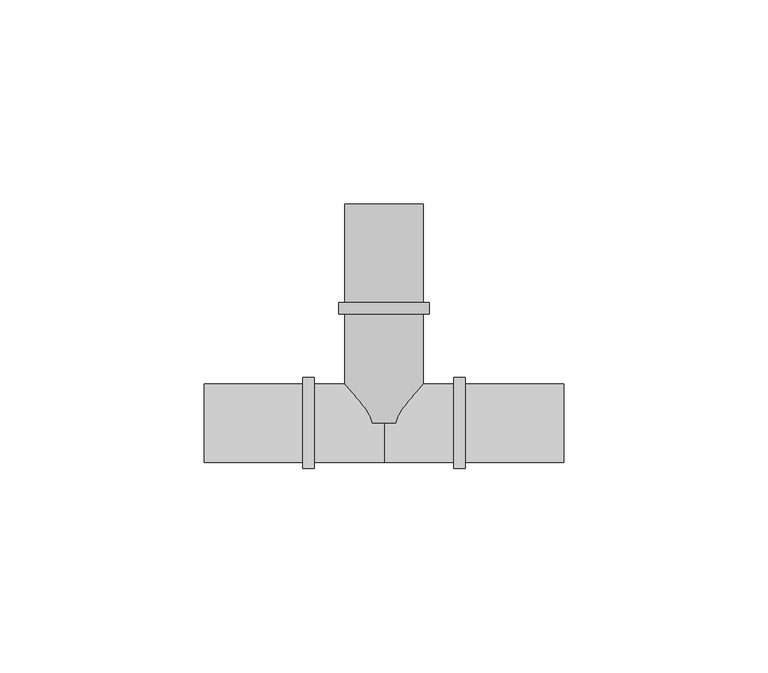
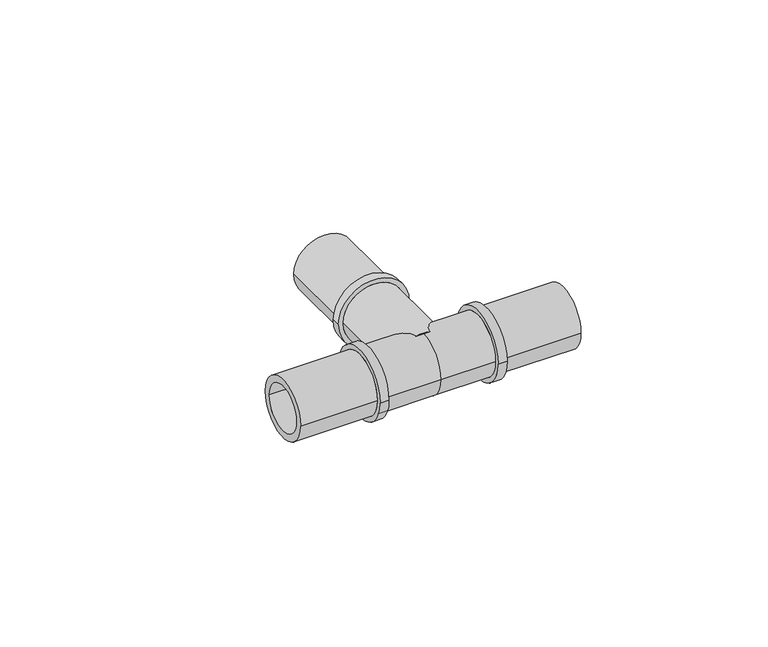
"""IFC4 building model written with IfcOpenShell, lengths in millimetres: pipe fitting geometry, FASTLOC_T-piece_LX : FSL T-Piece LX PL."""

from ifc_helpers import new_model, si_unit, frame, origin, place, context, project, spatial, polyline, circle_curve, source, transform, mapped, element, save
from ifc_brep_helpers import plane_surface, cylinder_surface, revolved_surface, advanced_brep


def pipe_fitting_5b3ed3f5(model_context):
    return source(origin(), model_context, "Body", "AdvancedBrep", [
        advanced_brep(
        [(7.35, 53.5, 0.0), (-7.35, 53.5, 0.0), (-7.35, 0.0, 0.0), (7.35, 0.0, 0.0), (9.6, 0.0, 0.0), (-9.6, 0.0, 0.0), (-9.6, 26.7, 0.0), (9.6, 26.7, 0.0), (11.1, 26.7, 0.0), (-11.1, 26.7, 0.0), (-11.1, 29.5, 0.0), (11.1, 29.5, 0.0), (9.6, 29.5, 0.0), (-9.6, 29.5, 0.0), (-9.6, 53.5, 0.0), (9.6, 53.5, 0.0)],
        [
            (0, 1, circle_curve(frame((0.0, 53.5, 0.0), z_axis=(0.0, 1.0, 0.0), x_axis=(-1.0, 0.0, 0.0)), 7.35)),
            (1, 2),
            (2, 3, circle_curve(frame((0.0, 0.0, 0.0), z_axis=(0.0, -1.0, 0.0), x_axis=(-1.0, 0.0, 0.0)), 7.35)),
            (3, 0),
            (4, 5, circle_curve(frame((0.0, 0.0, 0.0), z_axis=(0.0, 1.0, 0.0), x_axis=(-1.0, 0.0, 0.0)), 9.6)),
            (5, 6),
            (6, 7, circle_curve(frame((0.0, 26.7, 0.0), z_axis=(0.0, -1.0, 0.0), x_axis=(-1.0, 0.0, 0.0)), 9.6)),
            (7, 4),
            (8, 9, circle_curve(frame((0.0, 26.7, 0.0), z_axis=(0.0, 1.0, 0.0), x_axis=(-1.0, 0.0, 0.0)), 11.1)),
            (9, 10),
            (10, 11, circle_curve(frame((0.0, 29.5, 0.0), z_axis=(0.0, -1.0, 0.0), x_axis=(-1.0, 0.0, 0.0)), 11.1)),
            (11, 8),
            (12, 13, circle_curve(frame((0.0, 29.5, 0.0), z_axis=(0.0, 1.0, 0.0), x_axis=(-1.0, 0.0, 0.0)), 9.6)),
            (13, 14),
            (14, 15, circle_curve(frame((0.0, 53.5, 0.0), z_axis=(0.0, -1.0, 0.0), x_axis=(-1.0, 0.0, 0.0)), 9.6)),
            (15, 12),
            (1, 0, circle_curve(frame((0.0, 53.5, 0.0), z_axis=(0.0, 1.0, 0.0), x_axis=(1.0, 0.0, 0.0)), 7.35)),
            (3, 2, circle_curve(frame((0.0, 0.0, 0.0), z_axis=(0.0, -1.0, 0.0), x_axis=(1.0, 0.0, 0.0)), 7.35)),
            (4, 5, circle_curve(frame((0.0, 0.0, 0.0), z_axis=(0.0, -1.0, 0.0), x_axis=(1.0, 0.0, 0.0)), 9.6)),
            (7, 6, circle_curve(frame((0.0, 26.7, 0.0), z_axis=(0.0, -1.0, 0.0), x_axis=(1.0, 0.0, 0.0)), 9.6)),
            (8, 9, circle_curve(frame((0.0, 26.7, 0.0), z_axis=(0.0, -1.0, 0.0), x_axis=(1.0, 0.0, 0.0)), 11.1)),
            (11, 10, circle_curve(frame((0.0, 29.5, 0.0), z_axis=(0.0, -1.0, 0.0), x_axis=(1.0, 0.0, 0.0)), 11.1)),
            (12, 13, circle_curve(frame((0.0, 29.5, 0.0), z_axis=(0.0, -1.0, 0.0), x_axis=(1.0, 0.0, 0.0)), 9.6)),
            (15, 14, circle_curve(frame((0.0, 53.5, 0.0), z_axis=(0.0, -1.0, 0.0), x_axis=(1.0, 0.0, 0.0)), 9.6)),
        ],
        [
            revolved_surface(polyline([(-7.35, 0.0, 0.0), (-7.35, 53.5, 0.0)]), (0.0, 0.0, 0.0), (0.0, -1.0, 0.0)),
            cylinder_surface(frame((0.0, 0.0, 0.0), z_axis=(0.0, -1.0, 0.0), x_axis=(-1.0, 0.0, 0.0)), 9.6),
            cylinder_surface(frame((0.0, 0.0, 0.0), z_axis=(0.0, -1.0, 0.0), x_axis=(-1.0, 0.0, 0.0)), 11.1),
            revolved_surface(polyline([(7.35, 0.0, 0.0), (7.35, 53.5, 0.0)]), (0.0, 0.0, 0.0), (0.0, -1.0, 0.0)),
            plane_surface(frame((0.0, 0.0, 0.0), z_axis=(0.0, -1.0, 0.0), x_axis=(1.0, 0.0, 0.0))),
            cylinder_surface(frame((0.0, 0.0, 0.0), z_axis=(0.0, -1.0, 0.0), x_axis=(1.0, 0.0, 0.0)), 9.6),
            plane_surface(frame((0.0, 26.7, 0.0), z_axis=(0.0, -1.0, 0.0), x_axis=(1.0, 0.0, 0.0))),
            cylinder_surface(frame((0.0, 0.0, 0.0), z_axis=(0.0, -1.0, 0.0), x_axis=(1.0, 0.0, 0.0)), 11.1),
            plane_surface(frame((0.0, 29.5, 0.0), z_axis=(0.0, 1.0, 0.0), x_axis=(1.0, 0.0, 0.0))),
            plane_surface(frame((0.0, 53.5, 0.0), z_axis=(0.0, 1.0, 0.0), x_axis=(1.0, 0.0, 0.0))),
        ],
        [
            (0, [[1, 2, 3, 4]]),
            (1, [[5, 6, 7, 8]]),
            (2, [[9, 10, 11, 12]]),
            (1, [[13, 14, 15, 16]]),
            (3, [[17, -4, 18, -2]]),
            (4, [[19, -5], [-18, -3]]),
            (5, [[-19, -8, 20, -6]]),
            (6, [[21, -9], [-20, -7]]),
            (7, [[-21, -12, 22, -10]]),
            (8, [[-22, -11], [23, -13]]),
            (5, [[-23, -16, 24, -14]]),
            (9, [[-24, -15], [-17, -1]]),
        ],
    ),
        advanced_brep(
        [(0.0, 9.6, 0.0), (0.0, -9.6, 0.0), (-17.1, -9.6, 0.0), (-17.1, 9.6, 0.0), (17.1, 9.6, 0.0), (17.1, -9.6, 0.0), (19.9, 11.1, 0.0), (19.9, -11.1, 0.0), (17.1, -11.1, 0.0), (17.1, 11.1, 0.0), (43.9, 9.6, 0.0), (43.9, -9.6, 0.0), (19.9, -9.6, 0.0), (19.9, 9.6, 0.0), (-19.9, 9.6, 0.0), (-19.9, -9.6, 0.0), (-43.9, -9.6, 0.0), (-43.9, 9.6, 0.0), (-17.1, 11.1, 0.0), (-17.1, -11.1, 0.0), (-19.9, -11.1, 0.0), (-19.9, 11.1, 0.0), (43.9, -7.35, 0.0), (43.9, 7.35, 0.0), (-43.9, 7.35, 0.0), (-43.9, -7.35, 0.0), (0.0, 7.35, 0.0), (0.0, -7.35, 0.0)],
        [
            (0, 1, circle_curve(frame((0.0, 0.0, 0.0), z_axis=(-1.0, 0.0, 0.0), x_axis=(0.0, -1.0, 0.0)), 9.6)),
            (1, 2),
            (2, 3, circle_curve(frame((-17.1, 0.0, 0.0), z_axis=(1.0, 0.0, 0.0), x_axis=(0.0, -1.0, 0.0)), 9.6)),
            (3, 0),
            (4, 5, circle_curve(frame((17.1, 0.0, 0.0), z_axis=(-1.0, 0.0, 0.0), x_axis=(0.0, -1.0, 0.0)), 9.6)),
            (5, 1),
            (0, 4),
            (6, 7, circle_curve(frame((19.9, 0.0, 0.0), z_axis=(-1.0, 0.0, 0.0), x_axis=(0.0, -1.0, 0.0)), 11.1)),
            (7, 8),
            (8, 9, circle_curve(frame((17.1, 0.0, 0.0), z_axis=(1.0, 0.0, 0.0), x_axis=(0.0, -1.0, 0.0)), 11.1)),
            (9, 6),
            (10, 11, circle_curve(frame((43.9, 0.0, 0.0), z_axis=(-1.0, 0.0, 0.0), x_axis=(0.0, -1.0, 0.0)), 9.6)),
            (11, 12),
            (12, 13, circle_curve(frame((19.9, 0.0, 0.0), z_axis=(1.0, 0.0, 0.0), x_axis=(0.0, -1.0, 0.0)), 9.6)),
            (13, 10),
            (14, 15, circle_curve(frame((-19.9, 0.0, 0.0), z_axis=(-1.0, 0.0, 0.0), x_axis=(0.0, -1.0, 0.0)), 9.6)),
            (15, 16),
            (16, 17, circle_curve(frame((-43.9, 0.0, 0.0), z_axis=(1.0, 0.0, 0.0), x_axis=(0.0, -1.0, 0.0)), 9.6)),
            (17, 14),
            (18, 19, circle_curve(frame((-17.1, 0.0, 0.0), z_axis=(-1.0, 0.0, 0.0), x_axis=(0.0, -1.0, 0.0)), 11.1)),
            (19, 20),
            (20, 21, circle_curve(frame((-19.9, 0.0, 0.0), z_axis=(1.0, 0.0, 0.0), x_axis=(0.0, -1.0, 0.0)), 11.1)),
            (21, 18),
            (18, 19, circle_curve(frame((-17.1, 0.0, 0.0), z_axis=(1.0, 0.0, 0.0), x_axis=(0.0, 1.0, 0.0)), 11.1)),
            (2, 3, circle_curve(frame((-17.1, 0.0, 0.0), z_axis=(-1.0, 0.0, 0.0), x_axis=(0.0, 1.0, 0.0)), 9.6)),
            (1, 0, circle_curve(frame((0.0, 0.0, 0.0), z_axis=(-1.0, 0.0, 0.0), x_axis=(0.0, 1.0, 0.0)), 9.6)),
            (5, 4, circle_curve(frame((17.1, 0.0, 0.0), z_axis=(-1.0, 0.0, 0.0), x_axis=(0.0, 1.0, 0.0)), 9.6)),
            (8, 9, circle_curve(frame((17.1, 0.0, 0.0), z_axis=(-1.0, 0.0, 0.0), x_axis=(0.0, 1.0, 0.0)), 11.1)),
            (7, 6, circle_curve(frame((19.9, 0.0, 0.0), z_axis=(-1.0, 0.0, 0.0), x_axis=(0.0, 1.0, 0.0)), 11.1)),
            (12, 13, circle_curve(frame((19.9, 0.0, 0.0), z_axis=(-1.0, 0.0, 0.0), x_axis=(0.0, 1.0, 0.0)), 9.6)),
            (11, 10, circle_curve(frame((43.9, 0.0, 0.0), z_axis=(-1.0, 0.0, 0.0), x_axis=(0.0, 1.0, 0.0)), 9.6)),
            (22, 23, circle_curve(frame((43.9, 0.0, 0.0), z_axis=(-1.0, 0.0, 0.0), x_axis=(0.0, 1.0, 0.0)), 7.35)),
            (23, 22, circle_curve(frame((43.9, 0.0, 0.0), z_axis=(-1.0, 0.0, 0.0), x_axis=(0.0, -1.0, 0.0)), 7.35)),
            (16, 17, circle_curve(frame((-43.9, 0.0, 0.0), z_axis=(-1.0, 0.0, 0.0), x_axis=(0.0, 1.0, 0.0)), 9.6)),
            (24, 25, circle_curve(frame((-43.9, 0.0, 0.0), z_axis=(1.0, 0.0, 0.0), x_axis=(0.0, 1.0, 0.0)), 7.35)),
            (25, 24, circle_curve(frame((-43.9, 0.0, 0.0), z_axis=(1.0, 0.0, 0.0), x_axis=(0.0, -1.0, 0.0)), 7.35)),
            (15, 14, circle_curve(frame((-19.9, 0.0, 0.0), z_axis=(-1.0, 0.0, 0.0), x_axis=(0.0, 1.0, 0.0)), 9.6)),
            (20, 21, circle_curve(frame((-19.9, 0.0, 0.0), z_axis=(-1.0, 0.0, 0.0), x_axis=(0.0, 1.0, 0.0)), 11.1)),
            (26, 27, circle_curve(frame((0.0, 0.0, 0.0), z_axis=(-1.0, 0.0, 0.0), x_axis=(0.0, -1.0, 0.0)), 7.35)),
            (27, 22),
            (23, 26),
            (25, 27),
            (26, 24),
            (27, 26, circle_curve(frame((0.0, 0.0, 0.0), z_axis=(-1.0, 0.0, 0.0), x_axis=(0.0, 1.0, 0.0)), 7.35)),
        ],
        [
            cylinder_surface(frame((0.0, 0.0, 0.0), z_axis=(1.0, 0.0, 0.0), x_axis=(0.0, -1.0, 0.0)), 9.6),
            cylinder_surface(frame((0.0, 0.0, 0.0), z_axis=(1.0, 0.0, 0.0), x_axis=(0.0, -1.0, 0.0)), 11.1),
            plane_surface(frame((-17.1, 0.0, 0.0), z_axis=(1.0, 0.0, 0.0), x_axis=(0.0, 1.0, 0.0))),
            cylinder_surface(frame((0.0, 0.0, 0.0), z_axis=(1.0, 0.0, 0.0), x_axis=(0.0, 1.0, 0.0)), 9.6),
            plane_surface(frame((17.1, 0.0, 0.0), z_axis=(-1.0, 0.0, 0.0), x_axis=(0.0, 1.0, 0.0))),
            cylinder_surface(frame((0.0, 0.0, 0.0), z_axis=(1.0, 0.0, 0.0), x_axis=(0.0, 1.0, 0.0)), 11.1),
            plane_surface(frame((19.9, 0.0, 0.0), z_axis=(1.0, 0.0, 0.0), x_axis=(0.0, 1.0, 0.0))),
            plane_surface(frame((43.9, 0.0, 0.0), z_axis=(1.0, 0.0, 0.0), x_axis=(0.0, 1.0, 0.0))),
            plane_surface(frame((-43.9, 0.0, 0.0), z_axis=(-1.0, 0.0, 0.0), x_axis=(0.0, 1.0, 0.0))),
            plane_surface(frame((-19.9, 0.0, 0.0), z_axis=(-1.0, 0.0, 0.0), x_axis=(0.0, 1.0, 0.0))),
            revolved_surface(polyline([(43.9, -7.35, 0.0), (0.0, -7.35, 0.0)]), (0.0, 0.0, 0.0), (1.0, 0.0, 0.0)),
            revolved_surface(polyline([(0.0, -7.35, 0.0), (-43.9, -7.35, 0.0)]), (0.0, 0.0, 0.0), (1.0, 0.0, 0.0)),
            revolved_surface(polyline([(43.9, 7.35, 0.0), (0.0, 7.35, 0.0)]), (0.0, 0.0, 0.0), (1.0, 0.0, 0.0)),
            revolved_surface(polyline([(0.0, 7.35, 0.0), (-43.9, 7.35, 0.0)]), (0.0, 0.0, 0.0), (1.0, 0.0, 0.0)),
        ],
        [
            (0, [[1, 2, 3, 4]]),
            (0, [[5, 6, -1, 7]]),
            (1, [[8, 9, 10, 11]]),
            (0, [[12, 13, 14, 15]]),
            (0, [[16, 17, 18, 19]]),
            (1, [[20, 21, 22, 23]]),
            (2, [[24, -20], [25, -3]]),
            (3, [[26, -4, -25, -2]]),
            (3, [[27, -7, -26, -6]]),
            (4, [[28, -10], [-27, -5]]),
            (5, [[29, -11, -28, -9]]),
            (6, [[-29, -8], [30, -14]]),
            (3, [[31, -15, -30, -13]]),
            (7, [[-31, -12], [32, 33]]),
            (8, [[34, -18], [35, 36]]),
            (3, [[37, -19, -34, -17]]),
            (9, [[38, -22], [-37, -16]]),
            (5, [[-24, -23, -38, -21]]),
            (10, [[39, 40, -33, 41]]),
            (11, [[-36, 42, -39, 43]]),
            (12, [[44, -41, -32, -40]]),
            (13, [[-35, -43, -44, -42]]),
        ],
    ),
    ])


if __name__ == "__main__":
    model = new_model("IFC4")
    model_context = context("Model", 3, world=origin())
    ifc_project = project(units=[si_unit("LENGTHUNIT", "METRE", prefix="MILLI")], contexts=[model_context])
    site = spatial("IfcSite", under=ifc_project)
    building = spatial("IfcBuilding", under=site)
    placement = place(None, origin())
    pipe_fitting_shape = pipe_fitting_5b3ed3f5(model_context)
    element("IfcPipeFitting", 1, ObjectType="FASTLOC_T-piece_LX : FSL T-Piece LX PL", at=placement, inside=building, context=model_context, shape_type="MappedRepresentation", body=[
        mapped(pipe_fitting_shape, transform((0.0, 0.0, 0.0), x_axis=(1.0, 0.0, 0.0), y_axis=(0.0, 1.0, 0.0), z_axis=(0.0, 0.0, 1.0))),
    ])
    save(model, "model.ifc")
